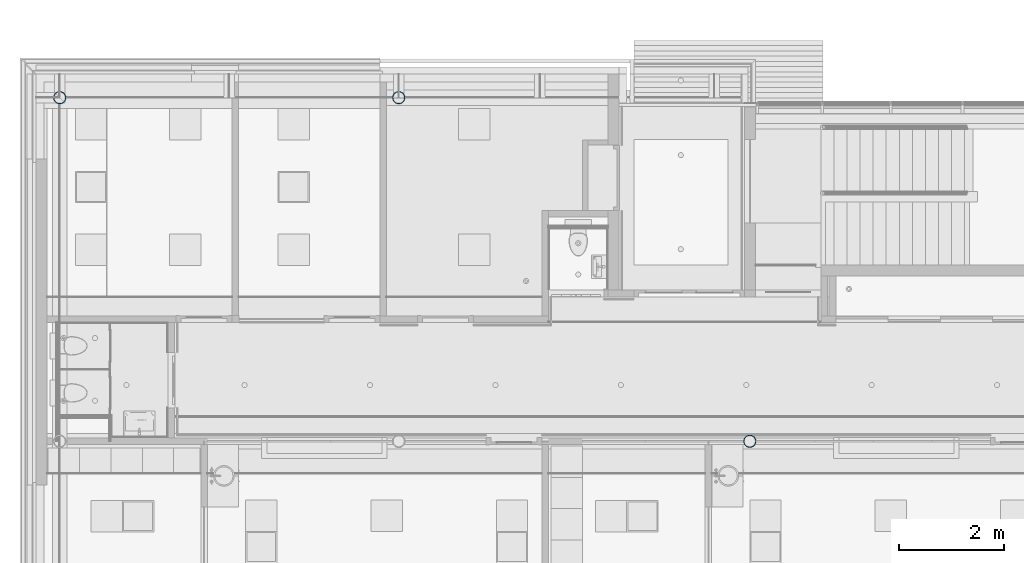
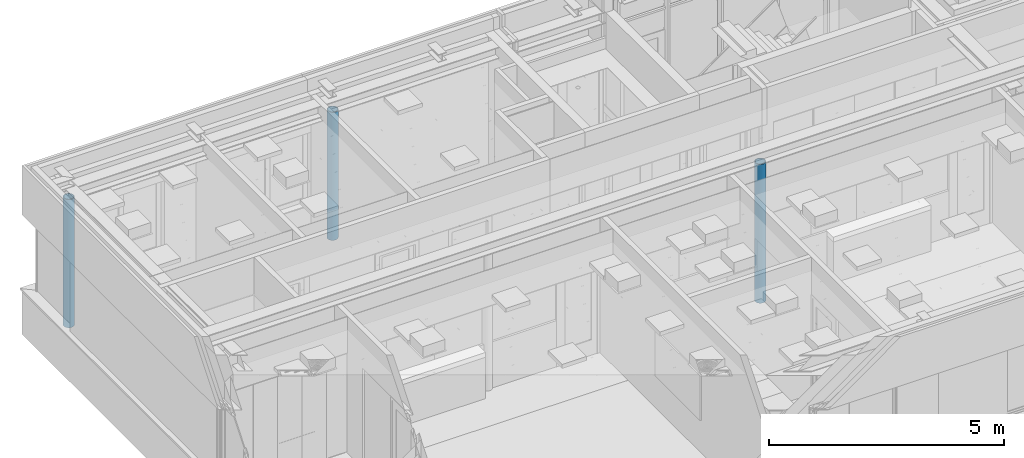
# One storey, part 11 of 347: 3 columns.
"""IFC2X3 building model written with IfcOpenShell, lengths in millimetres."""

from ifc_helpers import new_model, entity, si_unit, converted_unit, derived_unit, money_unit, direction, frame, origin_with_axes, place, context, subcontext, project, spatial, faceted_brep, material, type_object, element, save


model = new_model("IFC2X3")

# Units and contexts
model_context = context("Model", 3, precision=0.01, world=origin_with_axes(), true_north=direction((0.0, 1.0)))
plan_context = context("Plan", 3, precision=0.01, world=origin_with_axes(), true_north=direction((0.0, 1.0)))
body_context = subcontext(model_context, "Body", "Model", "MODEL_VIEW")
ifc_project = project(units=[si_unit("LENGTHUNIT", "METRE", prefix="MILLI"), si_unit("AREAUNIT", "SQUARE_METRE"), si_unit("VOLUMEUNIT", "CUBIC_METRE"), converted_unit("PLANEANGLEUNIT", "DEGREE", entity("IfcPlaneAngleMeasure", 0.0174532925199), si_unit("PLANEANGLEUNIT", "RADIAN"), dimensions=[0, 0, 0, 0, 0, 0, 0]), money_unit("EUR"), converted_unit("TIMEUNIT", "Year", entity("IfcTimeMeasure", 31556926.0), si_unit("TIMEUNIT", "SECOND"), dimensions=[0, 0, 1, 0, 0, 0, 0]), si_unit("MASSUNIT", "GRAM", prefix="KILO"), si_unit("THERMODYNAMICTEMPERATUREUNIT", "DEGREE_CELSIUS"), si_unit("LUMINOUSINTENSITYUNIT", "LUMEN"), si_unit("ENERGYUNIT", "JOULE", prefix="MEGA"), derived_unit("THERMALCONDUCTANCEUNIT", [(si_unit("POWERUNIT", "WATT"), 1), (si_unit("LENGTHUNIT", "METRE"), -1), (si_unit("THERMODYNAMICTEMPERATUREUNIT", "KELVIN"), -1)]), derived_unit("SPECIFICHEATCAPACITYUNIT", [(si_unit("ENERGYUNIT", "JOULE"), 1), (si_unit("MASSUNIT", "GRAM", prefix="KILO"), -1), (si_unit("THERMODYNAMICTEMPERATUREUNIT", "KELVIN"), -1)]), derived_unit("MASSDENSITYUNIT", [(si_unit("MASSUNIT", "GRAM", prefix="KILO"), 1), (si_unit("VOLUMEUNIT", "CUBIC_METRE"), -1)])], contexts=[model_context, plan_context])

# Site, building, storey
site_placement = place(None, origin_with_axes())
site = spatial("IfcSite", under=ifc_project, at=site_placement, Name="Site", CompositionType="ELEMENT")
building_placement = place(site_placement, origin_with_axes())
building = spatial("IfcBuilding", under=site, at=building_placement, Name="Naam gebouw", CompositionType="ELEMENT")
storey_placement = place(building_placement, origin_with_axes())
storey = spatial("IfcBuildingStorey", under=building, at=storey_placement, Name="begane grond", CompositionType="ELEMENT", Elevation=0.0)

# Columns
ifc_material = material(Name="Metaal - Staal C wit")
column_type = type_object("IfcColumnType", Name="Lucht D245", PredefinedType="COLUMN")
column_1_placement = place(storey_placement, frame((18505.0, 12125.0, -70.0), z_axis=(0.0, 0.0, 1.0), x_axis=(1.0, 0.0, 0.0)))
element("IfcColumn", 1, at=column_1_placement, inside=storey, type_object=column_type, material=ifc_material, Name="28_kolom ø 273mm", ObjectType="COLUMN", context=body_context, shape_type="Brep", body=[
    faceted_brep([(27.8124515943, 102.5, 1070.0), (27.4995235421, 102.629619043, 1070.0), (27.4995235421, 102.629619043, 0.0), (53.125, 92.0151991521, 0.0), (53.125, 92.0151991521, 3610.0), (27.4995235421, 102.629619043, 3610.0), (27.4995235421, 102.629619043, 1270.0), (27.8124515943, 102.5, 1270.0), (65.2067587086, 102.5, 1070.0), (53.0422871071, 110.143444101, 1070.0), (27.2031841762, 119.184937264, 1070.0), (0.0, 122.25, 1070.0), (-27.2031841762, 119.184937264, 1070.0), (-53.0422871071, 110.143444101, 1070.0), (-65.2067587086, 102.5, 1070.0), (-27.8124515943, 102.5, 1070.0), (-27.4995235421, 102.629619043, 1070.0), (0.0, 106.25, 1070.0), (0.0, 106.25, 0.0), (-119.184937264, -27.2031841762, 0.0), (-122.25, 0.0, 0.0), (-119.184937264, 27.2031841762, 0.0), (-110.143444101, 53.0422871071, 0.0), (-95.5788987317, 76.2216282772, 0.0), (-76.2216282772, 95.5788987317, 0.0), (-53.0422871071, 110.143444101, 0.0), (-27.2031841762, 119.184937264, 0.0), (0.0, 122.25, 0.0), (27.2031841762, 119.184937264, 0.0), (53.0422871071, 110.143444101, 0.0), (76.2216282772, 95.5788987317, 0.0), (95.5788987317, 76.2216282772, 0.0), (110.143444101, 53.0422871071, 0.0), (119.184937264, 27.2031841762, 0.0), (122.25, 0.0, 0.0), (119.184937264, -27.2031841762, 0.0), (110.143444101, -53.0422871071, 0.0), (95.5788987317, -76.2216282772, 0.0), (76.2216282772, -95.5788987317, 0.0), (53.0422871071, -110.143444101, 0.0), (27.2031841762, -119.184937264, 0.0), (0.0, -122.25, 0.0), (-27.2031841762, -119.184937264, 0.0), (-53.0422871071, -110.143444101, 0.0), (-76.2216282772, -95.5788987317, 0.0), (-95.5788987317, -76.2216282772, 0.0), (-110.143444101, -53.0422871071, 0.0), (-102.629619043, 27.4995235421, 0.0), (-106.25, 0.0, 0.0), (-102.629619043, -27.4995235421, 0.0), (-92.0151991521, -53.125, 0.0), (-75.1300955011, -75.1300955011, 0.0), (-53.125, -92.0151991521, 0.0), (-27.4995235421, -102.629619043, 0.0), (0.0, -106.25, 0.0), (27.4995235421, -102.629619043, 0.0), (53.125, -92.0151991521, 0.0), (75.1300955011, -75.1300955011, 0.0), (92.0151991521, -53.125, 0.0), (102.629619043, -27.4995235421, 0.0), (106.25, 0.0, 0.0), (102.629619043, 27.4995235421, 0.0), (92.0151991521, 53.125, 0.0), (75.1300955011, 75.1300955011, 0.0), (-27.4995235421, 102.629619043, 0.0), (-53.125, 92.0151991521, 0.0), (-75.1300955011, 75.1300955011, 0.0), (-92.0151991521, 53.125, 0.0), (75.1300955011, 75.1300955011, 3610.0), (-119.184937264, 27.2031841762, 3610.0), (-122.25, 0.0, 3610.0), (-119.184937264, -27.2031841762, 3610.0), (-110.143444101, -53.0422871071, 3610.0), (-95.5788987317, -76.2216282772, 3610.0), (-76.2216282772, -95.5788987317, 3610.0), (-53.0422871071, -110.143444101, 3610.0), (-27.2031841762, -119.184937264, 3610.0), (0.0, -122.25, 3610.0), (27.2031841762, -119.184937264, 3610.0), (53.0422871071, -110.143444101, 3610.0), (76.2216282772, -95.5788987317, 3610.0), (95.5788987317, -76.2216282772, 3610.0), (110.143444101, -53.0422871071, 3610.0), (119.184937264, -27.2031841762, 3610.0), (122.25, 0.0, 3610.0), (119.184937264, 27.2031841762, 3610.0), (110.143444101, 53.0422871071, 3610.0), (95.5788987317, 76.2216282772, 3610.0), (76.2216282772, 95.5788987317, 3610.0), (53.0422871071, 110.143444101, 3610.0), (27.2031841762, 119.184937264, 3610.0), (0.0, 122.25, 3610.0), (-27.2031841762, 119.184937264, 3610.0), (-53.0422871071, 110.143444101, 3610.0), (-76.2216282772, 95.5788987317, 3610.0), (-95.5788987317, 76.2216282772, 3610.0), (-110.143444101, 53.0422871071, 3610.0), (-102.629619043, -27.4995235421, 3610.0), (-106.25, 0.0, 3610.0), (-102.629619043, 27.4995235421, 3610.0), (-92.0151991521, 53.125, 3610.0), (-75.1300955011, 75.1300955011, 3610.0), (-53.125, 92.0151991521, 3610.0), (-27.4995235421, 102.629619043, 3610.0), (0.0, 106.25, 3610.0), (92.0151991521, 53.125, 3610.0), (102.629619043, 27.4995235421, 3610.0), (106.25, 0.0, 3610.0), (102.629619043, -27.4995235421, 3610.0), (92.0151991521, -53.125, 3610.0), (75.1300955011, -75.1300955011, 3610.0), (53.125, -92.0151991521, 3610.0), (27.4995235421, -102.629619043, 3610.0), (0.0, -106.25, 3610.0), (-27.4995235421, -102.629619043, 3610.0), (-53.125, -92.0151991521, 3610.0), (-75.1300955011, -75.1300955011, 3610.0), (-92.0151991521, -53.125, 3610.0), (0.0, 106.25, 1270.0), (53.0422871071, 110.143444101, 1270.0), (65.2067587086, 102.5, 1270.0), (-27.4995235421, 102.629619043, 1270.0), (-27.8124515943, 102.5, 1270.0), (-65.2067587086, 102.5, 1270.0), (-53.0422871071, 110.143444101, 1270.0), (-27.2031841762, 119.184937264, 1270.0), (0.0, 122.25, 1270.0), (27.2031841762, 119.184937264, 1270.0)], [[[0, 1, 2, 3, 4, 5, 6, 7]], [[8, 9, 10, 11, 12, 13, 14, 15, 16, 17, 1, 0]], [[1, 17, 18, 2]], [[19, 20, 21, 22, 23, 24, 25, 26, 27, 28, 29, 30, 31, 32, 33, 34, 35, 36, 37, 38, 39, 40, 41, 42, 43, 44, 45, 46], [47, 48, 49, 50, 51, 52, 53, 54, 55, 56, 57, 58, 59, 60, 61, 62, 63, 3, 2, 18, 64, 65, 66, 67]], [[4, 3, 63, 68]], [[69, 70, 71, 72, 73, 74, 75, 76, 77, 78, 79, 80, 81, 82, 83, 84, 85, 86, 87, 88, 89, 90, 91, 92, 93, 94, 95, 96], [97, 98, 99, 100, 101, 102, 103, 104, 5, 4, 68, 105, 106, 107, 108, 109, 110, 111, 112, 113, 114, 115, 116, 117]], [[118, 6, 5, 104]], [[119, 120, 7, 6, 118, 121, 122, 123, 124, 125, 126, 127]], [[120, 8, 0, 7]], [[9, 8, 120, 119, 89, 88, 30, 29]], [[10, 9, 29, 28]], [[11, 10, 28, 27]], [[12, 11, 27, 26]], [[13, 12, 26, 25]], [[14, 13, 25, 24, 94, 93, 124, 123]], [[122, 15, 14, 123]], [[122, 121, 103, 102, 65, 64, 16, 15]], [[17, 16, 64, 18]], [[70, 20, 19, 71]], [[69, 21, 20, 70]], [[96, 22, 21, 69]], [[95, 23, 22, 96]], [[94, 24, 23, 95]], [[87, 31, 30, 88]], [[86, 32, 31, 87]], [[85, 33, 32, 86]], [[84, 34, 33, 85]], [[83, 35, 34, 84]], [[82, 36, 35, 83]], [[81, 37, 36, 82]], [[80, 38, 37, 81]], [[79, 39, 38, 80]], [[78, 40, 39, 79]], [[77, 41, 40, 78]], [[76, 42, 41, 77]], [[75, 43, 42, 76]], [[74, 44, 43, 75]], [[73, 45, 44, 74]], [[72, 46, 45, 73]], [[71, 19, 46, 72]], [[98, 48, 47, 99]], [[97, 49, 48, 98]], [[117, 50, 49, 97]], [[116, 51, 50, 117]], [[115, 52, 51, 116]], [[114, 53, 52, 115]], [[113, 54, 53, 114]], [[112, 55, 54, 113]], [[111, 56, 55, 112]], [[110, 57, 56, 111]], [[109, 58, 57, 110]], [[108, 59, 58, 109]], [[107, 60, 59, 108]], [[106, 61, 60, 107]], [[105, 62, 61, 106]], [[68, 63, 62, 105]], [[101, 66, 65, 102]], [[100, 67, 66, 101]], [[99, 47, 67, 100]], [[119, 127, 90, 89]], [[127, 126, 91, 90]], [[126, 125, 92, 91]], [[125, 124, 93, 92]], [[121, 118, 104, 103]]]),
])
column_2_placement = place(storey_placement, frame((5300.0, 18700.0, -70.0), z_axis=(0.0, 0.0, 1.0), x_axis=(1.0, 0.0, 0.0)))
element("IfcColumn", 2, at=column_2_placement, inside=storey, type_object=column_type, material=ifc_material, Name="28_kolom ø 273mm", ObjectType="COLUMN", context=body_context, shape_type="Brep", body=[
    faceted_brep([(-122.25, 0.0, 0.0), (-119.184937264, -27.2031841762, 0.0), (-119.184937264, -27.2031841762, 3330.0), (-122.25, 0.0, 3330.0), (-119.184937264, 27.2031841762, 0.0), (-110.143444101, 53.0422871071, 0.0), (-95.5788987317, 76.2216282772, 0.0), (-76.2216282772, 95.5788987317, 0.0), (-53.0422871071, 110.143444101, 0.0), (-27.2031841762, 119.184937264, 0.0), (0.0, 122.25, 0.0), (27.2031841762, 119.184937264, 0.0), (53.0422871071, 110.143444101, 0.0), (76.2216282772, 95.5788987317, 0.0), (95.5788987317, 76.2216282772, 0.0), (110.143444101, 53.0422871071, 0.0), (119.184937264, 27.2031841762, 0.0), (122.25, 0.0, 0.0), (119.184937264, -27.2031841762, 0.0), (110.143444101, -53.0422871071, 0.0), (95.5788987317, -76.2216282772, 0.0), (76.2216282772, -95.5788987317, 0.0), (53.0422871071, -110.143444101, 0.0), (27.2031841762, -119.184937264, 0.0), (0.0, -122.25, 0.0), (-27.2031841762, -119.184937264, 0.0), (-53.0422871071, -110.143444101, 0.0), (-76.2216282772, -95.5788987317, 0.0), (-95.5788987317, -76.2216282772, 0.0), (-110.143444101, -53.0422871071, 0.0), (-106.25, 0.0, 0.0), (-102.629619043, -27.4995235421, 0.0), (-92.0151991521, -53.125, 0.0), (-75.1300955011, -75.1300955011, 0.0), (-53.125, -92.0151991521, 0.0), (-27.4995235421, -102.629619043, 0.0), (0.0, -106.25, 0.0), (27.4995235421, -102.629619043, 0.0), (53.125, -92.0151991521, 0.0), (75.1300955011, -75.1300955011, 0.0), (92.0151991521, -53.125, 0.0), (102.629619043, -27.4995235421, 0.0), (106.25, 0.0, 0.0), (102.629619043, 27.4995235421, 0.0), (92.0151991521, 53.125, 0.0), (75.1300955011, 75.1300955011, 0.0), (53.125, 92.0151991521, 0.0), (27.4995235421, 102.629619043, 0.0), (0.0, 106.25, 0.0), (-27.4995235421, 102.629619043, 0.0), (-53.125, 92.0151991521, 0.0), (-75.1300955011, 75.1300955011, 0.0), (-92.0151991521, 53.125, 0.0), (-102.629619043, 27.4995235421, 0.0), (-110.143444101, -53.0422871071, 3330.0), (-95.5788987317, -76.2216282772, 3330.0), (-76.2216282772, -95.5788987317, 3330.0), (-53.0422871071, -110.143444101, 3330.0), (-27.2031841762, -119.184937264, 3330.0), (0.0, -122.25, 3330.0), (27.2031841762, -119.184937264, 3330.0), (53.0422871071, -110.143444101, 3330.0), (76.2216282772, -95.5788987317, 3330.0), (95.5788987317, -76.2216282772, 3330.0), (110.143444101, -53.0422871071, 3330.0), (119.184937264, -27.2031841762, 3330.0), (122.25, 0.0, 3330.0), (119.184937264, 27.2031841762, 3330.0), (110.143444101, 53.0422871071, 3330.0), (95.5788987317, 76.2216282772, 3330.0), (76.2216282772, 95.5788987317, 3330.0), (53.0422871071, 110.143444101, 3330.0), (27.2031841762, 119.184937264, 3330.0), (0.0, 122.25, 3330.0), (-27.2031841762, 119.184937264, 3330.0), (-53.0422871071, 110.143444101, 3330.0), (-76.2216282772, 95.5788987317, 3330.0), (-95.5788987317, 76.2216282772, 3330.0), (-110.143444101, 53.0422871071, 3330.0), (-119.184937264, 27.2031841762, 3330.0), (-106.25, 0.0, 3330.0), (-102.629619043, 27.4995235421, 3330.0), (-92.0151991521, 53.125, 3330.0), (-75.1300955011, 75.1300955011, 3330.0), (-53.125, 92.0151991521, 3330.0), (-27.4995235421, 102.629619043, 3330.0), (0.0, 106.25, 3330.0), (27.4995235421, 102.629619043, 3330.0), (53.125, 92.0151991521, 3330.0), (75.1300955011, 75.1300955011, 3330.0), (92.0151991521, 53.125, 3330.0), (102.629619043, 27.4995235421, 3330.0), (106.25, 0.0, 3330.0), (102.629619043, -27.4995235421, 3330.0), (92.0151991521, -53.125, 3330.0), (75.1300955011, -75.1300955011, 3330.0), (53.125, -92.0151991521, 3330.0), (27.4995235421, -102.629619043, 3330.0), (0.0, -106.25, 3330.0), (-27.4995235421, -102.629619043, 3330.0), (-53.125, -92.0151991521, 3330.0), (-75.1300955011, -75.1300955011, 3330.0), (-92.0151991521, -53.125, 3330.0), (-102.629619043, -27.4995235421, 3330.0)], [[[0, 1, 2, 3]], [[0, 4, 5, 6, 7, 8, 9, 10, 11, 12, 13, 14, 15, 16, 17, 18, 19, 20, 21, 22, 23, 24, 25, 26, 27, 28, 29, 1], [30, 31, 32, 33, 34, 35, 36, 37, 38, 39, 40, 41, 42, 43, 44, 45, 46, 47, 48, 49, 50, 51, 52, 53]], [[1, 29, 54, 2]], [[3, 2, 54, 55, 56, 57, 58, 59, 60, 61, 62, 63, 64, 65, 66, 67, 68, 69, 70, 71, 72, 73, 74, 75, 76, 77, 78, 79], [80, 81, 82, 83, 84, 85, 86, 87, 88, 89, 90, 91, 92, 93, 94, 95, 96, 97, 98, 99, 100, 101, 102, 103]], [[4, 0, 3, 79]], [[5, 4, 79, 78]], [[6, 5, 78, 77]], [[7, 6, 77, 76]], [[8, 7, 76, 75]], [[9, 8, 75, 74]], [[10, 9, 74, 73]], [[11, 10, 73, 72]], [[12, 11, 72, 71]], [[13, 12, 71, 70]], [[14, 13, 70, 69]], [[15, 14, 69, 68]], [[16, 15, 68, 67]], [[17, 16, 67, 66]], [[18, 17, 66, 65]], [[19, 18, 65, 64]], [[20, 19, 64, 63]], [[21, 20, 63, 62]], [[22, 21, 62, 61]], [[23, 22, 61, 60]], [[24, 23, 60, 59]], [[25, 24, 59, 58]], [[26, 25, 58, 57]], [[27, 26, 57, 56]], [[28, 27, 56, 55]], [[29, 28, 55, 54]], [[31, 30, 80, 103]], [[32, 31, 103, 102]], [[33, 32, 102, 101]], [[34, 33, 101, 100]], [[35, 34, 100, 99]], [[36, 35, 99, 98]], [[37, 36, 98, 97]], [[38, 37, 97, 96]], [[39, 38, 96, 95]], [[40, 39, 95, 94]], [[41, 40, 94, 93]], [[42, 41, 93, 92]], [[43, 42, 92, 91]], [[44, 43, 91, 90]], [[45, 44, 90, 89]], [[46, 45, 89, 88]], [[47, 46, 88, 87]], [[48, 47, 87, 86]], [[49, 48, 86, 85]], [[50, 49, 85, 84]], [[51, 50, 84, 83]], [[52, 51, 83, 82]], [[53, 52, 82, 81]], [[30, 53, 81, 80]]]),
])
column_3_placement = place(storey_placement, frame((11787.5, 18700.0, -70.0), z_axis=(0.0, 0.0, 1.0), x_axis=(1.0, 0.0, 0.0)))
element("IfcColumn", 3, at=column_3_placement, inside=storey, type_object=column_type, material=ifc_material, Name="28_kolom ø 273mm", ObjectType="COLUMN", context=body_context, shape_type="Brep", body=[
    faceted_brep([(-122.25, 0.0, 0.0), (-119.184937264, -27.2031841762, 0.0), (-119.184937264, -27.2031841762, 3330.0), (-122.25, 0.0, 3330.0), (-119.184937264, 27.2031841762, 0.0), (-110.143444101, 53.0422871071, 0.0), (-95.5788987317, 76.2216282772, 0.0), (-76.2216282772, 95.5788987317, 0.0), (-53.0422871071, 110.143444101, 0.0), (-27.2031841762, 119.184937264, 0.0), (0.0, 122.25, 0.0), (27.2031841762, 119.184937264, 0.0), (53.0422871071, 110.143444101, 0.0), (76.2216282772, 95.5788987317, 0.0), (95.5788987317, 76.2216282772, 0.0), (110.143444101, 53.0422871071, 0.0), (119.184937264, 27.2031841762, 0.0), (122.25, 0.0, 0.0), (119.184937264, -27.2031841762, 0.0), (110.143444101, -53.0422871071, 0.0), (95.5788987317, -76.2216282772, 0.0), (76.2216282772, -95.5788987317, 0.0), (53.0422871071, -110.143444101, 0.0), (27.2031841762, -119.184937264, 0.0), (0.0, -122.25, 0.0), (-27.2031841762, -119.184937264, 0.0), (-53.0422871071, -110.143444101, 0.0), (-76.2216282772, -95.5788987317, 0.0), (-95.5788987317, -76.2216282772, 0.0), (-110.143444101, -53.0422871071, 0.0), (-106.25, 0.0, 0.0), (-102.629619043, -27.4995235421, 0.0), (-92.0151991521, -53.125, 0.0), (-75.1300955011, -75.1300955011, 0.0), (-53.125, -92.0151991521, 0.0), (-27.4995235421, -102.629619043, 0.0), (0.0, -106.25, 0.0), (27.4995235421, -102.629619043, 0.0), (53.125, -92.0151991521, 0.0), (75.1300955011, -75.1300955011, 0.0), (92.0151991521, -53.125, 0.0), (102.629619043, -27.4995235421, 0.0), (106.25, 0.0, 0.0), (102.629619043, 27.4995235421, 0.0), (92.0151991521, 53.125, 0.0), (75.1300955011, 75.1300955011, 0.0), (53.125, 92.0151991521, 0.0), (27.4995235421, 102.629619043, 0.0), (0.0, 106.25, 0.0), (-27.4995235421, 102.629619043, 0.0), (-53.125, 92.0151991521, 0.0), (-75.1300955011, 75.1300955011, 0.0), (-92.0151991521, 53.125, 0.0), (-102.629619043, 27.4995235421, 0.0), (-110.143444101, -53.0422871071, 3330.0), (-95.5788987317, -76.2216282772, 3330.0), (-76.2216282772, -95.5788987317, 3330.0), (-53.0422871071, -110.143444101, 3330.0), (-27.2031841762, -119.184937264, 3330.0), (0.0, -122.25, 3330.0), (27.2031841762, -119.184937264, 3330.0), (53.0422871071, -110.143444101, 3330.0), (76.2216282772, -95.5788987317, 3330.0), (95.5788987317, -76.2216282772, 3330.0), (110.143444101, -53.0422871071, 3330.0), (119.184937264, -27.2031841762, 3330.0), (122.25, 0.0, 3330.0), (119.184937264, 27.2031841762, 3330.0), (110.143444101, 53.0422871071, 3330.0), (95.5788987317, 76.2216282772, 3330.0), (76.2216282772, 95.5788987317, 3330.0), (53.0422871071, 110.143444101, 3330.0), (27.2031841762, 119.184937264, 3330.0), (0.0, 122.25, 3330.0), (-27.2031841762, 119.184937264, 3330.0), (-53.0422871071, 110.143444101, 3330.0), (-76.2216282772, 95.5788987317, 3330.0), (-95.5788987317, 76.2216282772, 3330.0), (-110.143444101, 53.0422871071, 3330.0), (-119.184937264, 27.2031841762, 3330.0), (-106.25, 0.0, 3330.0), (-102.629619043, 27.4995235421, 3330.0), (-92.0151991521, 53.125, 3330.0), (-75.1300955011, 75.1300955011, 3330.0), (-53.125, 92.0151991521, 3330.0), (-27.4995235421, 102.629619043, 3330.0), (0.0, 106.25, 3330.0), (27.4995235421, 102.629619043, 3330.0), (53.125, 92.0151991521, 3330.0), (75.1300955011, 75.1300955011, 3330.0), (92.0151991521, 53.125, 3330.0), (102.629619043, 27.4995235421, 3330.0), (106.25, 0.0, 3330.0), (102.629619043, -27.4995235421, 3330.0), (92.0151991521, -53.125, 3330.0), (75.1300955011, -75.1300955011, 3330.0), (53.125, -92.0151991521, 3330.0), (27.4995235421, -102.629619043, 3330.0), (0.0, -106.25, 3330.0), (-27.4995235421, -102.629619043, 3330.0), (-53.125, -92.0151991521, 3330.0), (-75.1300955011, -75.1300955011, 3330.0), (-92.0151991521, -53.125, 3330.0), (-102.629619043, -27.4995235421, 3330.0)], [[[0, 1, 2, 3]], [[0, 4, 5, 6, 7, 8, 9, 10, 11, 12, 13, 14, 15, 16, 17, 18, 19, 20, 21, 22, 23, 24, 25, 26, 27, 28, 29, 1], [30, 31, 32, 33, 34, 35, 36, 37, 38, 39, 40, 41, 42, 43, 44, 45, 46, 47, 48, 49, 50, 51, 52, 53]], [[1, 29, 54, 2]], [[3, 2, 54, 55, 56, 57, 58, 59, 60, 61, 62, 63, 64, 65, 66, 67, 68, 69, 70, 71, 72, 73, 74, 75, 76, 77, 78, 79], [80, 81, 82, 83, 84, 85, 86, 87, 88, 89, 90, 91, 92, 93, 94, 95, 96, 97, 98, 99, 100, 101, 102, 103]], [[4, 0, 3, 79]], [[5, 4, 79, 78]], [[6, 5, 78, 77]], [[7, 6, 77, 76]], [[8, 7, 76, 75]], [[9, 8, 75, 74]], [[10, 9, 74, 73]], [[11, 10, 73, 72]], [[12, 11, 72, 71]], [[13, 12, 71, 70]], [[14, 13, 70, 69]], [[15, 14, 69, 68]], [[16, 15, 68, 67]], [[17, 16, 67, 66]], [[18, 17, 66, 65]], [[19, 18, 65, 64]], [[20, 19, 64, 63]], [[21, 20, 63, 62]], [[22, 21, 62, 61]], [[23, 22, 61, 60]], [[24, 23, 60, 59]], [[25, 24, 59, 58]], [[26, 25, 58, 57]], [[27, 26, 57, 56]], [[28, 27, 56, 55]], [[29, 28, 55, 54]], [[31, 30, 80, 103]], [[32, 31, 103, 102]], [[33, 32, 102, 101]], [[34, 33, 101, 100]], [[35, 34, 100, 99]], [[36, 35, 99, 98]], [[37, 36, 98, 97]], [[38, 37, 97, 96]], [[39, 38, 96, 95]], [[40, 39, 95, 94]], [[41, 40, 94, 93]], [[42, 41, 93, 92]], [[43, 42, 92, 91]], [[44, 43, 91, 90]], [[45, 44, 90, 89]], [[46, 45, 89, 88]], [[47, 46, 88, 87]], [[48, 47, 87, 86]], [[49, 48, 86, 85]], [[50, 49, 85, 84]], [[51, 50, 84, 83]], [[52, 51, 83, 82]], [[53, 52, 82, 81]], [[30, 53, 81, 80]]]),
])

save(model, "model.ifc")
